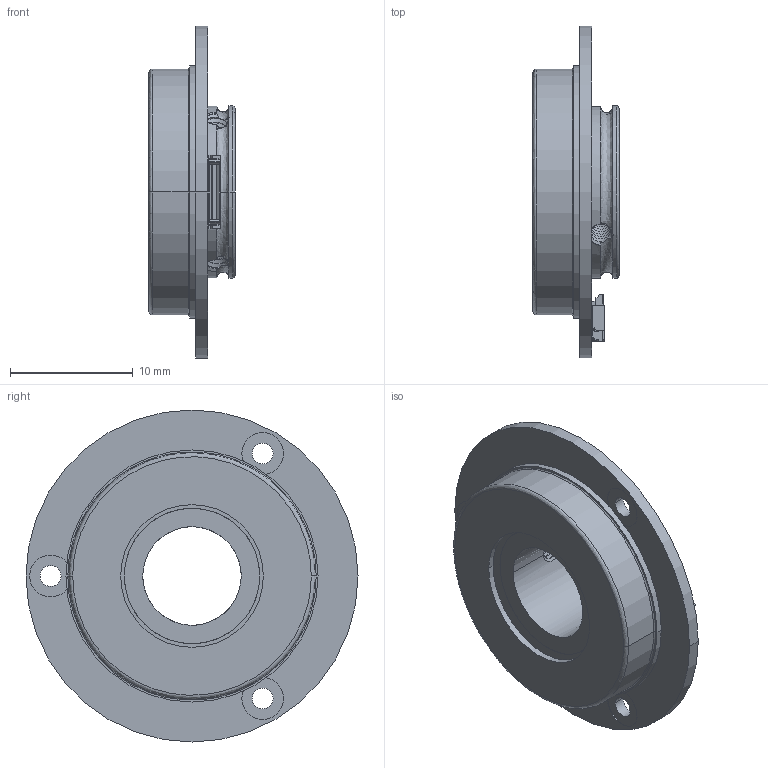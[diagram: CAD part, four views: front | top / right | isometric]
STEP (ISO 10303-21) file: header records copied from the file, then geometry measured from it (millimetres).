
FILE_DESCRIPTION (( 'STEP AP214' ), '1' );
FILE_NAME ('MBS-8-27 ¸üÐÂ.STEP', '2024-07-05T06:41:26', ( 'C' ), ( 'Microsoft' ), 'SwSTEP 2.0', 'SolidWorks 2016', '' );
FILE_SCHEMA (( 'AUTOMOTIVE_DESIGN' ));
Length unit declared in the file: millimetre
Products named in the file (1): MBS-8-27 載陔
Bounding box: 7 x 27 x 27 mm (x, y, z)
Volume: 1194.8 mm3; surface area: 2907.1 mm2
Topology: 5 solids, 5 shells, 451 faces, 1210 edges, 794 vertices
Faces by surface type: plane 287, bspline 88, cylinder 69, cone 7
Entity records: 35826 total; most frequent: CARTESIAN_POINT 23524, ORIENTED_EDGE 2418, DIRECTION 1839, EDGE_CURVE 1209, VECTOR 831, LINE 831, VERTEX_POINT 794, AXIS2_PLACEMENT_3D 504
